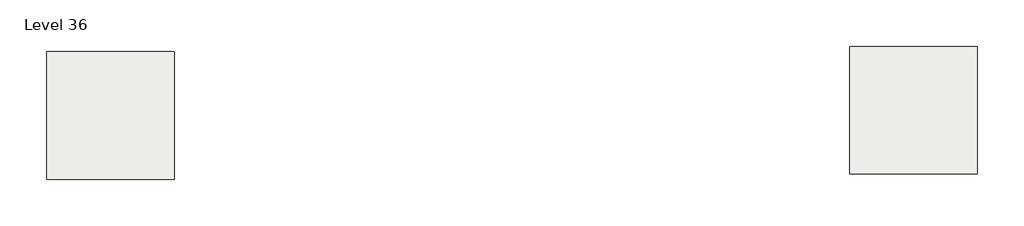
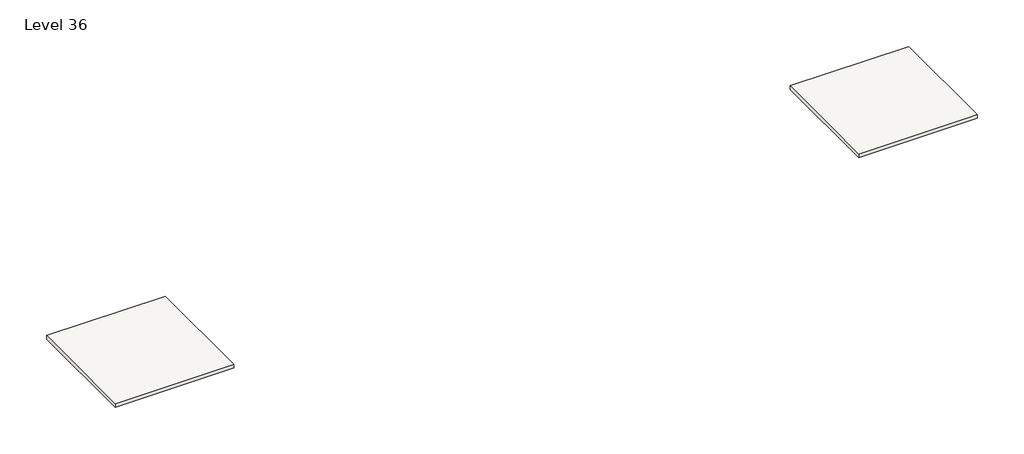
# One storey: 2 slabs.
"""IFC4 building model written with IfcOpenShell, lengths in millimetres."""

from ifc_helpers import new_model, si_unit, frame, origin, place, context, project, spatial, polyline, outline, extrude, element, save

model = new_model("IFC4")

# Units and contexts
model_context = context("Model", 3, world=origin())
ifc_project = project(units=[si_unit("LENGTHUNIT", "METRE", prefix="MILLI")], contexts=[model_context])

# Site, building, storey
site = spatial("IfcSite", under=ifc_project)
building = spatial("IfcBuilding", under=site)
storey = spatial("IfcBuildingStorey", under=building, Name="Level 36", Elevation=106680.0)

# Slabs
placement = place(None, origin())
element("IfcSlab", 1, ObjectType="Generic - 12\"", at=placement, inside=storey, context=model_context, shape_type="SweptSolid", body=[
    extrude(outline(polyline([(-8641.8488996, 6449.9495511), (-8641.8488996, -2694.0504489), (-17785.8488996, -2694.0504489), (-17785.8488996, 6449.9495511), (-8641.8488996, 6449.9495511)])), frame((0.0, 0.0, 106375.2), z_axis=(0.0, 0.0, 1.0), x_axis=(1.0, 0.0, 0.0)), (0.0, 0.0, 1.0), 304.8),
])
element("IfcSlab", 2, ObjectType="Generic - 12\"", at=placement, inside=storey, context=model_context, shape_type="SweptSolid", body=[
    extrude(outline(polyline([(48791.8576677, 6827.0904402), (48791.8576677, -2316.9095598), (39647.8576677, -2316.9095598), (39647.8576677, 6827.0904402), (48791.8576677, 6827.0904402)])), frame((0.0, 0.0, 106375.2), z_axis=(0.0, 0.0, 1.0), x_axis=(1.0, 0.0, 0.0)), (0.0, 0.0, 1.0), 304.8),
])

save(model, "model.ifc")
